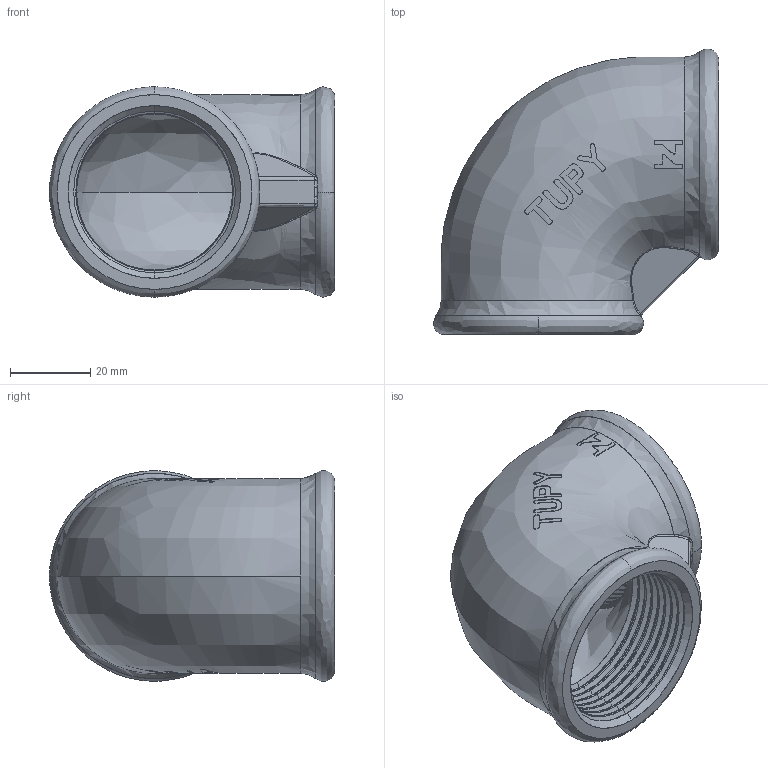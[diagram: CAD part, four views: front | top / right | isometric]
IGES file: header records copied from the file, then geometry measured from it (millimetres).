
Start section: SolidWorks IGES file using analytic representation for surfaces
Global section: file name: C:\Users\Joel Rosa\Desktop\Tubulação\12-07-OK\12-07-008.IGS; native system: SolidWorks 2011; preprocessor: SolidWorks 2011; author: Joel Rosa; date: 121204.003800; units: millimetre
Bounding box: 71.29 x 71.3 x 52.6 mm (x, y, z)
Surface area: 27119.5 mm2 (no closed solid volume)
Topology: 0 solids, 0 shells, 316 faces, 3130 edges, 3130 vertices
Faces by surface type: bspline 244, revolution 72
